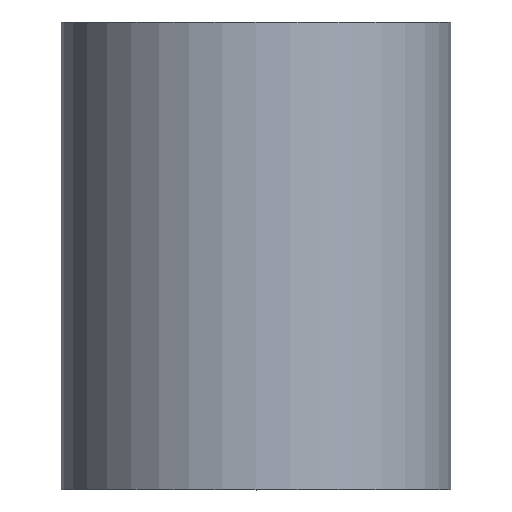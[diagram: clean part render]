
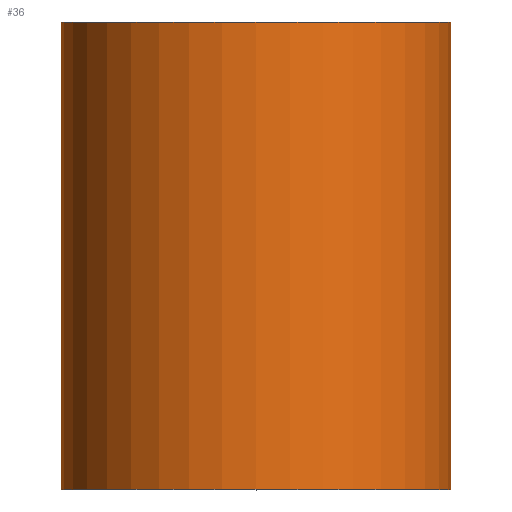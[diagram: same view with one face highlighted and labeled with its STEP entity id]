
A CAD part, top view. The second image highlights one B-rep face of the part: STEP entity #36.
In plain terms, the highlighted cylindrical face has radius 2.5 mm (diameter 5 mm), a partial arc.
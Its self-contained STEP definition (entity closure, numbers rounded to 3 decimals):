
#2 = ORIENTED_EDGE ( 'NONE', *, *, #190, .T. ) ;
#4 = VERTEX_POINT ( 'NONE', #288 ) ;
#12 = LINE ( 'NONE', #224, #73 ) ;
#13 = DIRECTION ( 'NONE',  ( 0., 1., 0. ) ) ;
#21 = AXIS2_PLACEMENT_3D ( 'NONE', #120, #56, #265 ) ;
#33 = VERTEX_POINT ( 'NONE', #55 ) ;
#36 = ADVANCED_FACE ( 'NONE', ( #231 ), #282, .T. ) ;
#38 = CARTESIAN_POINT ( 'NONE',  ( 0., 0., 0. ) ) ;
#41 = CARTESIAN_POINT ( 'NONE',  ( 2.5, 0., 0. ) ) ;
#44 = ORIENTED_EDGE ( 'NONE', *, *, #143, .F. ) ;
#55 = CARTESIAN_POINT ( 'NONE',  ( -2.5, 6., 0. ) ) ;
#56 = DIRECTION ( 'NONE',  ( 0., 1., 0. ) ) ;
#58 = CIRCLE ( 'NONE', #157, 2.5 ) ;
#61 = DIRECTION ( 'NONE',  ( 0., 1., 0. ) ) ;
#72 = LINE ( 'NONE', #78, #184 ) ;
#73 = VECTOR ( 'NONE', #61, 1000. ) ;
#78 = CARTESIAN_POINT ( 'NONE',  ( -2.5, 0., 0. ) ) ;
#105 = EDGE_LOOP ( 'NONE', ( #146, #2, #165, #44 ) ) ;
#107 = DIRECTION ( 'NONE',  ( -1., 0., 0. ) ) ;
#119 = EDGE_CURVE ( 'NONE', #4, #197, #58, .T. ) ;
#120 = CARTESIAN_POINT ( 'NONE',  ( 0., 0., 0. ) ) ;
#143 = EDGE_CURVE ( 'NONE', #4, #33, #72, .T. ) ;
#146 = ORIENTED_EDGE ( 'NONE', *, *, #119, .T. ) ;
#157 = AXIS2_PLACEMENT_3D ( 'NONE', #38, #225, #195 ) ;
#165 = ORIENTED_EDGE ( 'NONE', *, *, #177, .F. ) ;
#173 = CARTESIAN_POINT ( 'NONE',  ( 2.5, 6., 0. ) ) ;
#174 = VERTEX_POINT ( 'NONE', #173 ) ;
#177 = EDGE_CURVE ( 'NONE', #33, #174, #236, .T. ) ;
#184 = VECTOR ( 'NONE', #297, 1000. ) ;
#185 = AXIS2_PLACEMENT_3D ( 'NONE', #296, #13, #107 ) ;
#190 = EDGE_CURVE ( 'NONE', #197, #174, #12, .T. ) ;
#195 = DIRECTION ( 'NONE',  ( -1., 0., 0. ) ) ;
#197 = VERTEX_POINT ( 'NONE', #41 ) ;
#224 = CARTESIAN_POINT ( 'NONE',  ( 2.5, 0., 0. ) ) ;
#225 = DIRECTION ( 'NONE',  ( 0., 1., 0. ) ) ;
#231 = FACE_OUTER_BOUND ( 'NONE', #105, .T. ) ;
#236 = CIRCLE ( 'NONE', #185, 2.5 ) ;
#265 = DIRECTION ( 'NONE',  ( -1., 0., 0. ) ) ;
#282 = CYLINDRICAL_SURFACE ( 'NONE', #21, 2.5 ) ;
#288 = CARTESIAN_POINT ( 'NONE',  ( -2.5, 0., 0. ) ) ;
#296 = CARTESIAN_POINT ( 'NONE',  ( 0., 6., 0. ) ) ;
#297 = DIRECTION ( 'NONE',  ( 0., 1., 0. ) ) ;
